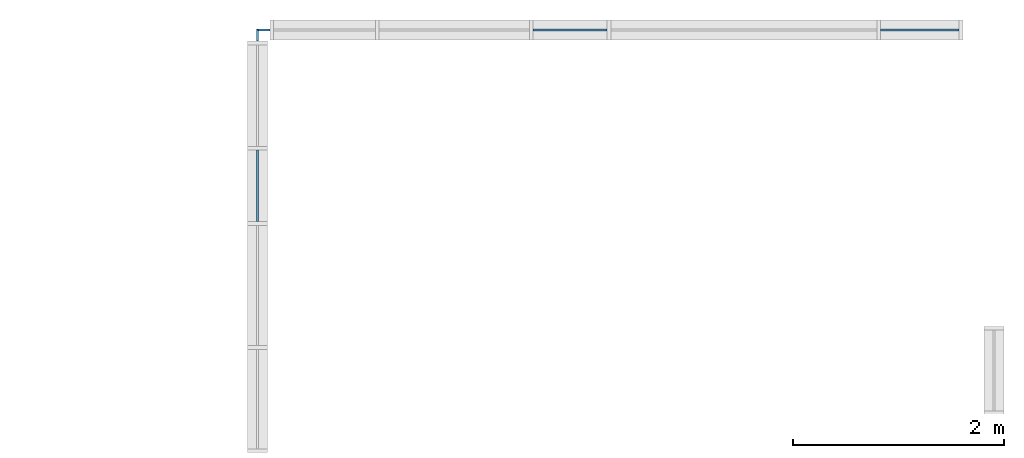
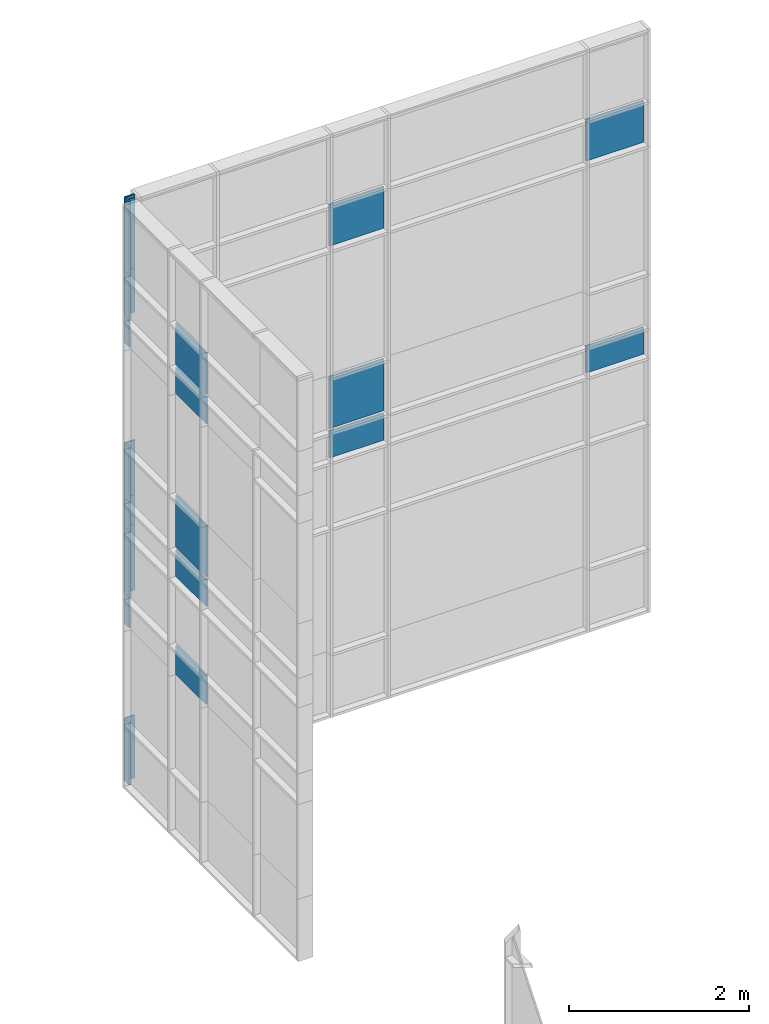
# One storey, part 44 of 73: 26 plates, 2 elements without a shape of their own.
"""IFC2X3 building model written with IfcOpenShell, lengths in millimetres."""

from ifc_helpers import new_model, entity, si_unit, converted_unit, derived_unit, direction, frame, frame_2d, origin, origin_2d_with_axis, place, context, subcontext, project, spatial, rectangle, extrude, source, transform, mapped, material, layer, layer_set, layer_usage, type_object, type_shapes, element, aggregate, save


model = new_model("IFC2X3")

# Units and contexts
model_context = context("Model", 3, precision=0.01, world=origin(), true_north=direction((6.12303176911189e-17, 1.0)))
body_context = subcontext(model_context, "Body", "Model", "MODEL_VIEW")
ifc_project = project(units=[si_unit("LENGTHUNIT", "METRE", prefix="MILLI"), si_unit("AREAUNIT", "SQUARE_METRE"), si_unit("VOLUMEUNIT", "CUBIC_METRE"), converted_unit("PLANEANGLEUNIT", "DEGREE", entity("IfcRatioMeasure", 0.0174532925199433), si_unit("PLANEANGLEUNIT", "RADIAN"), dimensions=[0, 0, 0, 0, 0, 0, 0]), si_unit("MASSUNIT", "GRAM", prefix="KILO"), derived_unit("MASSDENSITYUNIT", [(si_unit("MASSUNIT", "GRAM", prefix="KILO"), 1), (si_unit("LENGTHUNIT", "METRE"), -3)]), si_unit("TIMEUNIT", "SECOND"), si_unit("FREQUENCYUNIT", "HERTZ"), si_unit("THERMODYNAMICTEMPERATUREUNIT", "DEGREE_CELSIUS"), derived_unit("THERMALTRANSMITTANCEUNIT", [(si_unit("MASSUNIT", "GRAM", prefix="KILO"), 1), (si_unit("THERMODYNAMICTEMPERATUREUNIT", "KELVIN"), -1), (si_unit("TIMEUNIT", "SECOND"), -3)]), derived_unit("VOLUMETRICFLOWRATEUNIT", [(si_unit("LENGTHUNIT", "METRE"), 3), (si_unit("TIMEUNIT", "SECOND"), -1)]), si_unit("ELECTRICCURRENTUNIT", "AMPERE"), si_unit("ELECTRICVOLTAGEUNIT", "VOLT"), si_unit("POWERUNIT", "WATT"), si_unit("FORCEUNIT", "NEWTON", prefix="KILO"), si_unit("ILLUMINANCEUNIT", "LUX"), si_unit("LUMINOUSFLUXUNIT", "LUMEN"), si_unit("LUMINOUSINTENSITYUNIT", "CANDELA"), derived_unit("USERDEFINED", [(si_unit("MASSUNIT", "GRAM", prefix="KILO"), -1), (si_unit("LENGTHUNIT", "METRE"), -2), (si_unit("TIMEUNIT", "SECOND"), 3), (si_unit("LUMINOUSFLUXUNIT", "LUMEN"), 1)]), derived_unit("LINEARVELOCITYUNIT", [(si_unit("LENGTHUNIT", "METRE"), 1), (si_unit("TIMEUNIT", "SECOND"), -1)]), si_unit("PRESSUREUNIT", "PASCAL"), derived_unit("USERDEFINED", [(si_unit("LENGTHUNIT", "METRE"), -2), (si_unit("MASSUNIT", "GRAM", prefix="KILO"), 1), (si_unit("TIMEUNIT", "SECOND"), -2)])], contexts=[model_context])

# Site, building, storey
site_placement = place(None, frame((-151.875543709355, 2715.0, 0.0)))
site = spatial("IfcSite", under=ifc_project, at=site_placement, Name="Surface", CompositionType="ELEMENT")
building_placement = place(site_placement, origin())
building = spatial("IfcBuilding", under=site, at=building_placement, CompositionType="ELEMENT")
storey_placement = place(building_placement, frame((0.0, 0.0, 6730.43000000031)))
storey = spatial("IfcBuildingStorey", under=building, at=storey_placement, Name="3 korrus", CompositionType="ELEMENT", Elevation=6730.43000000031)

# Curtain wall, plates
curtain_wall_type = type_object("IfcCurtainWallType", Name="Curtain Wall:Klaasfassaad2", PredefinedType="NOTDEFINED")
curtain_wall_1_placement = place(storey_placement, frame((0.0, 0.0, -6730.43000000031)))
curtain_wall_1 = element("IfcCurtainWall", 1, at=curtain_wall_1_placement, inside=storey, type_object=curtain_wall_type, Name="Curtain Wall:Klaasfassaad2", ObjectType="Curtain Wall:Klaasfassaad2")
ifc_material = material(Name="<Unnamed>")
ifc_layer = layer(ifc_material, 20.0)
ifc_layer_set = layer_set([ifc_layer], Name="Curtain Wall:Klaassein KLS-01")
ifc_layer_usage_1 = layer_usage(ifc_layer_set, "AXIS3", "POSITIVE", 0.0)
plate_type_1 = type_object("IfcPlateType", Name="Glazed", PredefinedType="CURTAIN_PANEL", material=ifc_layer_set)
shared_shape_1 = source(origin(), body_context, "Body", "SweptSolid", [
    extrude(rectangle(XDim=20.0, YDim=129.499999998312, at=frame_2d((0.0, -7.105427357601e-15), x_axis=(1.0, 0.0))), frame((0.0, 0.0, 0.0), z_axis=(0.0, 0.0, 1.0), x_axis=(0.0, 1.0, 0.0)), (0.0, 0.0, 1.0), 850.159729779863),
])
type_shapes(plate_type_1, [shared_shape_1])
plate_1_placement = place(curtain_wall_1_placement, frame((31762.366268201, 26624.0, 3874.42773967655), z_axis=(0.0, 0.0, 1.0), x_axis=(-1.0, 0.0, 0.0)))
plate_1 = element("IfcPlate", 2, at=plate_1_placement, type_object=plate_type_1, material=ifc_layer_usage_1, Name="System Panel:Glazed", ObjectType="Glazed", context=body_context, shape_type="MappedRepresentation", body=[
    mapped(shared_shape_1, transform((0.0, 0.0, 0.0), scale=1.0)),
])
ifc_layer_usage_2 = layer_usage(ifc_layer_set, "AXIS3", "POSITIVE", 0.0)
plate_type_2 = type_object("IfcPlateType", Name="Glazed", PredefinedType="CURTAIN_PANEL", material=ifc_layer_set)
shared_shape_2 = source(origin(), body_context, "Body", "SweptSolid", [
    extrude(rectangle(XDim=20.0, YDim=129.499999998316, at=origin_2d_with_axis()), frame((0.0, 0.0, 0.0), z_axis=(0.0, 0.0, 1.0), x_axis=(0.0, 1.0, 0.0)), (0.0, 0.0, 1.0), 900.000000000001),
])
type_shapes(plate_type_2, [shared_shape_2])
plate_2_placement = place(curtain_wall_1_placement, frame((31762.366268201, 26624.0, 6424.90692901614), z_axis=(0.0, 0.0, 1.0), x_axis=(-1.0, 0.0, 0.0)))
plate_2 = element("IfcPlate", 3, at=plate_2_placement, type_object=plate_type_2, material=ifc_layer_usage_2, Name="System Panel:Glazed", ObjectType="Glazed", context=body_context, shape_type="MappedRepresentation", body=[
    mapped(shared_shape_2, transform((0.0, 0.0, 0.0), scale=1.0)),
])
ifc_layer_usage_3 = layer_usage(ifc_layer_set, "AXIS3", "POSITIVE", 0.0)
plate_type_3 = type_object("IfcPlateType", Name="Glazed", PredefinedType="CURTAIN_PANEL", material=ifc_layer_set)
shared_shape_3 = source(origin(), body_context, "Body", "SweptSolid", [
    extrude(rectangle(XDim=20.0, YDim=747.49999999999, at=origin_2d_with_axis()), frame((0.0, 0.0, 0.0), z_axis=(0.0, 0.0, 1.0), x_axis=(0.0, 1.0, 0.0)), (0.0, 0.0, 1.0), 365.0),
])
type_shapes(plate_type_3, [shared_shape_3])
plate_3_placement = place(curtain_wall_1_placement, frame((37997.8662682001, 26624.0, 7342.40692901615), z_axis=(0.0, 0.0, 1.0), x_axis=(-1.0, 0.0, 0.0)))
plate_3 = element("IfcPlate", 4, at=plate_3_placement, type_object=plate_type_3, material=ifc_layer_usage_3, Name="System Panel:Glazed", ObjectType="Glazed", context=body_context, shape_type="MappedRepresentation", body=[
    mapped(shared_shape_3, transform((0.0, 0.0, 0.0), scale=1.0)),
])
ifc_layer_usage_4 = layer_usage(ifc_layer_set, "AXIS3", "POSITIVE", 0.0)
plate_type_4 = type_object("IfcPlateType", Name="Glazed", PredefinedType="CURTAIN_PANEL", material=ifc_layer_set)
shared_shape_4 = source(origin(), body_context, "Body", "SweptSolid", [
    extrude(rectangle(XDim=20.0, YDim=705.000000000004, at=origin_2d_with_axis()), frame((0.0, 0.0, 0.0), z_axis=(0.0, 0.0, 1.0), x_axis=(0.0, 1.0, 0.0)), (0.0, 0.0, 1.0), 365.0),
])
type_shapes(plate_type_4, [shared_shape_4])
plate_4_placement = place(curtain_wall_1_placement, frame((34676.6162682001, 26624.0, 7342.40692901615), z_axis=(0.0, 0.0, 1.0), x_axis=(-1.0, 0.0, 0.0)))
plate_4 = element("IfcPlate", 5, at=plate_4_placement, type_object=plate_type_4, material=ifc_layer_usage_4, Name="System Panel:Glazed", ObjectType="Glazed", context=body_context, shape_type="MappedRepresentation", body=[
    mapped(shared_shape_4, transform((0.0, 0.0, 0.0), scale=1.0)),
])
ifc_layer_usage_5 = layer_usage(ifc_layer_set, "AXIS3", "POSITIVE", 0.0)
plate_type_5 = type_object("IfcPlateType", Name="Glazed", PredefinedType="CURTAIN_PANEL", material=ifc_layer_set)
shared_shape_5 = source(origin(), body_context, "Body", "SweptSolid", [
    extrude(rectangle(XDim=20.0, YDim=129.499999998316, at=origin_2d_with_axis()), frame((0.0, 0.0, 0.0), z_axis=(0.0, 0.0, 1.0), x_axis=(0.0, 1.0, 0.0)), (0.0, 0.0, 1.0), 400.000000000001),
])
type_shapes(plate_type_5, [shared_shape_5])
plate_5_placement = place(curtain_wall_1_placement, frame((31762.366268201, 26624.0, 7324.90692901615), z_axis=(0.0, 0.0, 1.0), x_axis=(-1.0, 0.0, 0.0)))
plate_5 = element("IfcPlate", 6, at=plate_5_placement, type_object=plate_type_5, material=ifc_layer_usage_5, Name="System Panel:Glazed", ObjectType="Glazed", context=body_context, shape_type="MappedRepresentation", body=[
    mapped(shared_shape_5, transform((0.0, 0.0, 0.0), scale=1.0)),
])
ifc_layer_usage_6 = layer_usage(ifc_layer_set, "AXIS3", "POSITIVE", 0.0)
plate_type_6 = type_object("IfcPlateType", Name="Glazed", PredefinedType="CURTAIN_PANEL", material=ifc_layer_set)
shared_shape_6 = source(origin(), body_context, "Body", "SweptSolid", [
    extrude(rectangle(XDim=20.0, YDim=705.000000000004, at=origin_2d_with_axis()), frame((0.0, 0.0, 0.0), z_axis=(0.0, 0.0, 1.0), x_axis=(0.0, 1.0, 0.0)), (0.0, 0.0, 1.0), 705.000000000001),
])
type_shapes(plate_type_6, [shared_shape_6])
plate_6_placement = place(curtain_wall_1_placement, frame((34676.6162682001, 26624.0, 7742.40692901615), z_axis=(0.0, 0.0, 1.0), x_axis=(-1.0, 0.0, 0.0)))
plate_6 = element("IfcPlate", 7, at=plate_6_placement, type_object=plate_type_6, material=ifc_layer_usage_6, Name="System Panel:Glazed", ObjectType="Glazed", context=body_context, shape_type="MappedRepresentation", body=[
    mapped(shared_shape_6, transform((0.0, 0.0, 0.0), scale=1.0)),
])
ifc_layer_usage_7 = layer_usage(ifc_layer_set, "AXIS3", "POSITIVE", 0.0)
plate_type_7 = type_object("IfcPlateType", Name="Glazed", PredefinedType="CURTAIN_PANEL", material=ifc_layer_set)
shared_shape_7 = source(origin(), body_context, "Body", "SweptSolid", [
    extrude(rectangle(XDim=20.0, YDim=129.499999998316, at=origin_2d_with_axis()), frame((0.0, 0.0, 0.0), z_axis=(0.0, 0.0, 1.0), x_axis=(0.0, 1.0, 0.0)), (0.0, 0.0, 1.0), 740.000000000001),
])
type_shapes(plate_type_7, [shared_shape_7])
plate_7_placement = place(curtain_wall_1_placement, frame((31762.366268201, 26624.0, 7724.90692901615), z_axis=(0.0, 0.0, 1.0), x_axis=(-1.0, 0.0, 0.0)))
plate_7 = element("IfcPlate", 8, at=plate_7_placement, type_object=plate_type_7, material=ifc_layer_usage_7, Name="System Panel:Glazed", ObjectType="Glazed", context=body_context, shape_type="MappedRepresentation", body=[
    mapped(shared_shape_7, transform((0.0, 0.0, 0.0), scale=1.0)),
])
ifc_layer_usage_8 = layer_usage(ifc_layer_set, "AXIS3", "POSITIVE", 0.0)
plate_type_8 = type_object("IfcPlateType", Name="Glazed", PredefinedType="CURTAIN_PANEL", material=ifc_layer_set)
shared_shape_8 = source(origin(), body_context, "Body", "SweptSolid", [
    extrude(rectangle(XDim=20.0, YDim=747.49999999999, at=origin_2d_with_axis()), frame((0.0, 0.0, 0.0), z_axis=(0.0, 0.0, 1.0), x_axis=(0.0, 1.0, 0.0)), (0.0, 0.0, 1.0), 565.000000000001),
])
type_shapes(plate_type_8, [shared_shape_8])
plate_8_placement = place(curtain_wall_1_placement, frame((37997.8662682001, 26624.0, 10222.4069290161), z_axis=(0.0, 0.0, 1.0), x_axis=(-1.0, 0.0, 0.0)))
plate_8 = element("IfcPlate", 9, at=plate_8_placement, type_object=plate_type_8, material=ifc_layer_usage_8, Name="System Panel:Glazed", ObjectType="Glazed", context=body_context, shape_type="MappedRepresentation", body=[
    mapped(shared_shape_8, transform((0.0, 0.0, 0.0), scale=1.0)),
])
ifc_layer_usage_9 = layer_usage(ifc_layer_set, "AXIS3", "POSITIVE", 0.0)
plate_type_9 = type_object("IfcPlateType", Name="Glazed", PredefinedType="CURTAIN_PANEL", material=ifc_layer_set)
shared_shape_9 = source(origin(), body_context, "Body", "SweptSolid", [
    extrude(rectangle(XDim=20.0, YDim=705.000000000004, at=origin_2d_with_axis()), frame((0.0, 0.0, 0.0), z_axis=(0.0, 0.0, 1.0), x_axis=(0.0, 1.0, 0.0)), (0.0, 0.0, 1.0), 565.0),
])
type_shapes(plate_type_9, [shared_shape_9])
plate_9_placement = place(curtain_wall_1_placement, frame((34676.6162682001, 26624.0, 10222.4069290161), z_axis=(0.0, 0.0, 1.0), x_axis=(-1.0, 0.0, 0.0)))
plate_9 = element("IfcPlate", 10, at=plate_9_placement, type_object=plate_type_9, material=ifc_layer_usage_9, Name="System Panel:Glazed", ObjectType="Glazed", context=body_context, shape_type="MappedRepresentation", body=[
    mapped(shared_shape_9, transform((0.0, 0.0, 0.0), scale=1.0)),
])
ifc_layer_usage_10 = layer_usage(ifc_layer_set, "AXIS3", "POSITIVE", 0.0)
plate_type_10 = type_object("IfcPlateType", Name="Glazed", PredefinedType="CURTAIN_PANEL", material=ifc_layer_set)
shared_shape_10 = source(origin(), body_context, "Body", "SweptSolid", [
    extrude(rectangle(XDim=20.0, YDim=129.499999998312, at=frame_2d((0.0, -7.105427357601e-15), x_axis=(1.0, 0.0))), frame((0.0, 0.0, 0.0), z_axis=(0.0, 0.0, 1.0), x_axis=(0.0, 1.0, 0.0)), (0.0, 0.0, 1.0), 600.000000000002),
])
type_shapes(plate_type_10, [shared_shape_10])
plate_10_placement = place(curtain_wall_1_placement, frame((31762.366268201, 26624.0, 10204.9069290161), z_axis=(0.0, 0.0, 1.0), x_axis=(-1.0, 0.0, 0.0)))
plate_10 = element("IfcPlate", 11, at=plate_10_placement, type_object=plate_type_10, material=ifc_layer_usage_10, Name="System Panel:Glazed", ObjectType="Glazed", context=body_context, shape_type="MappedRepresentation", body=[
    mapped(shared_shape_10, transform((0.0, 0.0, 0.0), scale=1.0)),
])
ifc_layer_usage_11 = layer_usage(ifc_layer_set, "AXIS3", "POSITIVE", 0.0)
plate_type_11 = type_object("IfcPlateType", Name="Glazed", PredefinedType="CURTAIN_PANEL", material=ifc_layer_set)
shared_shape_11 = source(origin(), body_context, "Body", "SweptSolid", [
    extrude(rectangle(XDim=20.0, YDim=129.499999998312, at=frame_2d((0.0, -7.105427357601e-15), x_axis=(1.0, 0.0))), frame((0.0, 0.0, 0.0), z_axis=(0.0, 0.0, 1.0), x_axis=(0.0, 1.0, 0.0)), (0.0, 0.0, 1.0), 960.000000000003),
])
type_shapes(plate_type_11, [shared_shape_11])
plate_11_placement = place(curtain_wall_1_placement, frame((31762.366268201, 26624.0, 10804.9069290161), z_axis=(0.0, 0.0, 1.0), x_axis=(-1.0, 0.0, 0.0)))
plate_11 = element("IfcPlate", 12, at=plate_11_placement, type_object=plate_type_11, material=ifc_layer_usage_11, Name="System Panel:Glazed", ObjectType="Glazed", context=body_context, shape_type="MappedRepresentation", body=[
    mapped(shared_shape_11, transform((0.0, 0.0, 0.0), scale=1.0)),
])
ifc_layer_usage_12 = layer_usage(ifc_layer_set, "AXIS3", "POSITIVE", 0.0)
plate_type_12 = type_object("IfcPlateType", Name="Glazed", PredefinedType="CURTAIN_PANEL", material=ifc_layer_set)
shared_shape_12 = source(origin(), body_context, "Body", "SweptSolid", [
    extrude(rectangle(XDim=20.0, YDim=129.499999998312, at=frame_2d((0.0, -7.105427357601e-15), x_axis=(1.0, 0.0))), frame((0.0, 0.0, 0.0), z_axis=(0.0, 0.0, 1.0), x_axis=(0.0, 1.0, 0.0)), (0.0, 0.0, 1.0), 39.9999999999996),
])
type_shapes(plate_type_12, [shared_shape_12])
plate_12_placement = place(curtain_wall_1_placement, frame((31762.366268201, 26624.0, 11764.9069290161), z_axis=(0.0, 0.0, 1.0), x_axis=(-1.0, 0.0, 0.0)))
plate_12 = element("IfcPlate", 13, at=plate_12_placement, type_object=plate_type_12, material=ifc_layer_usage_12, Name="System Panel:Glazed", ObjectType="Glazed", context=body_context, shape_type="MappedRepresentation", body=[
    mapped(shared_shape_12, transform((0.0, 0.0, 0.0), scale=1.0)),
])
aggregate(curtain_wall_1, [plate_1, plate_2, plate_3, plate_4, plate_5, plate_6, plate_7, plate_8, plate_9, plate_10, plate_11, plate_12])

curtain_wall_2_placement = place(storey_placement, frame((0.0, 0.0, -6730.43000000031)))
curtain_wall_2 = element("IfcCurtainWall", 14, at=curtain_wall_2_placement, inside=storey, type_object=curtain_wall_type, Name="Curtain Wall:Klaasfassaad2", ObjectType="Curtain Wall:Klaasfassaad2")
ifc_layer_usage_13 = layer_usage(ifc_layer_set, "AXIS3", "POSITIVE", 0.0)
plate_type_13 = type_object("IfcPlateType", Name="Glazed", PredefinedType="CURTAIN_PANEL", material=ifc_layer_set)
shared_shape_13 = source(origin(), body_context, "Body", "SweptSolid", [
    extrude(rectangle(XDim=20.0, YDim=105.318663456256, at=origin_2d_with_axis()), frame((0.0, 0.0, 0.0), z_axis=(0.0, 0.0, 1.0), x_axis=(0.0, 1.0, 0.0)), (0.0, 0.0, 1.0), 850.159729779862),
])
type_shapes(plate_type_13, [shared_shape_13])
plate_13_placement = place(curtain_wall_2_placement, frame((31707.6162682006, 26571.3406948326, 3874.42773967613), z_axis=(0.0, 0.0, 1.0), x_axis=(0.0, 1.0, 0.0)))
plate_13 = element("IfcPlate", 15, at=plate_13_placement, type_object=plate_type_13, material=ifc_layer_usage_13, Name="System Panel:Glazed", ObjectType="Glazed", context=body_context, shape_type="MappedRepresentation", body=[
    mapped(shared_shape_13, transform((0.0, 0.0, 0.0), scale=1.0)),
])
ifc_layer_usage_14 = layer_usage(ifc_layer_set, "AXIS3", "POSITIVE", 0.0)
plate_type_14 = type_object("IfcPlateType", Name="Glazed", PredefinedType="CURTAIN_PANEL", material=ifc_layer_set)
shared_shape_14 = source(origin(), body_context, "Body", "SweptSolid", [
    extrude(rectangle(XDim=20.0, YDim=679.999999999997, at=origin_2d_with_axis()), frame((0.0, 0.0, 0.0), z_axis=(0.0, 0.0, 1.0), x_axis=(0.0, 1.0, 0.0)), (0.0, 0.0, 1.0), 397.979189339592),
])
type_shapes(plate_type_14, [shared_shape_14])
plate_14_placement = place(curtain_wall_2_placement, frame((31707.6162682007, 25143.6813631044, 6009.42773967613), z_axis=(0.0, 0.0, 1.0), x_axis=(0.0, 1.0, 0.0)))
plate_14 = element("IfcPlate", 16, at=plate_14_placement, type_object=plate_type_14, material=ifc_layer_usage_14, Name="System Panel:Glazed", ObjectType="Glazed", context=body_context, shape_type="MappedRepresentation", body=[
    mapped(shared_shape_14, transform((0.0, 0.0, 0.0), scale=1.0)),
])
ifc_layer_usage_15 = layer_usage(ifc_layer_set, "AXIS3", "POSITIVE", 0.0)
plate_type_15 = type_object("IfcPlateType", Name="Glazed", PredefinedType="CURTAIN_PANEL", material=ifc_layer_set)
shared_shape_15 = source(origin(), body_context, "Body", "SweptSolid", [
    extrude(rectangle(XDim=20.0, YDim=105.31866345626, at=origin_2d_with_axis()), frame((0.0, 0.0, 0.0), z_axis=(0.0, 0.0, 1.0), x_axis=(0.0, 1.0, 0.0)), (0.0, 0.0, 1.0), 415.479189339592),
])
type_shapes(plate_type_15, [shared_shape_15])
plate_15_placement = place(curtain_wall_2_placement, frame((31707.6162682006, 26571.3406948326, 6009.42773967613), z_axis=(0.0, 0.0, 1.0), x_axis=(0.0, 1.0, 0.0)))
plate_15 = element("IfcPlate", 17, at=plate_15_placement, type_object=plate_type_15, material=ifc_layer_usage_15, Name="System Panel:Glazed", ObjectType="Glazed", context=body_context, shape_type="MappedRepresentation", body=[
    mapped(shared_shape_15, transform((0.0, 0.0, 0.0), scale=1.0)),
])
ifc_layer_usage_16 = layer_usage(ifc_layer_set, "AXIS3", "POSITIVE", 0.0)
plate_type_16 = type_object("IfcPlateType", Name="Glazed", PredefinedType="CURTAIN_PANEL", material=ifc_layer_set)
shared_shape_16 = source(origin(), body_context, "Body", "SweptSolid", [
    extrude(rectangle(XDim=20.0, YDim=105.318663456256, at=origin_2d_with_axis()), frame((0.0, 0.0, 0.0), z_axis=(0.0, 0.0, 1.0), x_axis=(0.0, 1.0, 0.0)), (0.0, 0.0, 1.0), 900.000000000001),
])
type_shapes(plate_type_16, [shared_shape_16])
plate_16_placement = place(curtain_wall_2_placement, frame((31707.6162682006, 26571.3406948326, 6424.90692901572), z_axis=(0.0, 0.0, 1.0), x_axis=(0.0, 1.0, 0.0)))
plate_16 = element("IfcPlate", 18, at=plate_16_placement, type_object=plate_type_16, material=ifc_layer_usage_16, Name="System Panel:Glazed", ObjectType="Glazed", context=body_context, shape_type="MappedRepresentation", body=[
    mapped(shared_shape_16, transform((0.0, 0.0, 0.0), scale=1.0)),
])
ifc_layer_usage_17 = layer_usage(ifc_layer_set, "AXIS3", "POSITIVE", 0.0)
plate_type_17 = type_object("IfcPlateType", Name="Glazed", PredefinedType="CURTAIN_PANEL", material=ifc_layer_set)
shared_shape_17 = source(origin(), body_context, "Body", "SweptSolid", [
    extrude(rectangle(XDim=20.0, YDim=679.999999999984, at=origin_2d_with_axis()), frame((0.0, 0.0, 0.0), z_axis=(0.0, 0.0, 1.0), x_axis=(0.0, 1.0, 0.0)), (0.0, 0.0, 1.0), 364.999999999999),
])
type_shapes(plate_type_17, [shared_shape_17])
plate_17_placement = place(curtain_wall_2_placement, frame((31707.6162682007, 25143.6813631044, 7342.40692901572), z_axis=(0.0, 0.0, 1.0), x_axis=(0.0, 1.0, 0.0)))
plate_17 = element("IfcPlate", 19, at=plate_17_placement, type_object=plate_type_17, material=ifc_layer_usage_17, Name="System Panel:Glazed", ObjectType="Glazed", context=body_context, shape_type="MappedRepresentation", body=[
    mapped(shared_shape_17, transform((0.0, 0.0, 0.0), scale=1.0)),
])
ifc_layer_usage_18 = layer_usage(ifc_layer_set, "AXIS3", "POSITIVE", 0.0)
plate_type_18 = type_object("IfcPlateType", Name="Glazed", PredefinedType="CURTAIN_PANEL", material=ifc_layer_set)
shared_shape_18 = source(origin(), body_context, "Body", "SweptSolid", [
    extrude(rectangle(XDim=20.0, YDim=105.318663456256, at=origin_2d_with_axis()), frame((0.0, 0.0, 0.0), z_axis=(0.0, 0.0, 1.0), x_axis=(0.0, 1.0, 0.0)), (0.0, 0.0, 1.0), 400.000000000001),
])
type_shapes(plate_type_18, [shared_shape_18])
plate_18_placement = place(curtain_wall_2_placement, frame((31707.6162682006, 26571.3406948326, 7324.90692901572), z_axis=(0.0, 0.0, 1.0), x_axis=(0.0, 1.0, 0.0)))
plate_18 = element("IfcPlate", 20, at=plate_18_placement, type_object=plate_type_18, material=ifc_layer_usage_18, Name="System Panel:Glazed", ObjectType="Glazed", context=body_context, shape_type="MappedRepresentation", body=[
    mapped(shared_shape_18, transform((0.0, 0.0, 0.0), scale=1.0)),
])
ifc_layer_usage_19 = layer_usage(ifc_layer_set, "AXIS3", "POSITIVE", 0.0)
plate_type_19 = type_object("IfcPlateType", Name="Glazed", PredefinedType="CURTAIN_PANEL", material=ifc_layer_set)
shared_shape_19 = source(origin(), body_context, "Body", "SweptSolid", [
    extrude(rectangle(XDim=20.0, YDim=679.999999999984, at=origin_2d_with_axis()), frame((0.0, 0.0, 0.0), z_axis=(0.0, 0.0, 1.0), x_axis=(0.0, 1.0, 0.0)), (0.0, 0.0, 1.0), 705.0),
])
type_shapes(plate_type_19, [shared_shape_19])
plate_19_placement = place(curtain_wall_2_placement, frame((31707.6162682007, 25143.6813631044, 7742.40692901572), z_axis=(0.0, 0.0, 1.0), x_axis=(0.0, 1.0, 0.0)))
plate_19 = element("IfcPlate", 21, at=plate_19_placement, type_object=plate_type_19, material=ifc_layer_usage_19, Name="System Panel:Glazed", ObjectType="Glazed", context=body_context, shape_type="MappedRepresentation", body=[
    mapped(shared_shape_19, transform((0.0, 0.0, 0.0), scale=1.0)),
])
ifc_layer_usage_20 = layer_usage(ifc_layer_set, "AXIS3", "POSITIVE", 0.0)
plate_type_20 = type_object("IfcPlateType", Name="Glazed", PredefinedType="CURTAIN_PANEL", material=ifc_layer_set)
shared_shape_20 = source(origin(), body_context, "Body", "SweptSolid", [
    extrude(rectangle(XDim=20.0, YDim=105.31866345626, at=origin_2d_with_axis()), frame((0.0, 0.0, 0.0), z_axis=(0.0, 0.0, 1.0), x_axis=(0.0, 1.0, 0.0)), (0.0, 0.0, 1.0), 740.000000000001),
])
type_shapes(plate_type_20, [shared_shape_20])
plate_20_placement = place(curtain_wall_2_placement, frame((31707.6162682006, 26571.3406948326, 7724.90692901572), z_axis=(0.0, 0.0, 1.0), x_axis=(0.0, 1.0, 0.0)))
plate_20 = element("IfcPlate", 22, at=plate_20_placement, type_object=plate_type_20, material=ifc_layer_usage_20, Name="System Panel:Glazed", ObjectType="Glazed", context=body_context, shape_type="MappedRepresentation", body=[
    mapped(shared_shape_20, transform((0.0, 0.0, 0.0), scale=1.0)),
])
ifc_layer_usage_21 = layer_usage(ifc_layer_set, "AXIS3", "POSITIVE", 0.0)
plate_type_21 = type_object("IfcPlateType", Name="Glazed", PredefinedType="CURTAIN_PANEL", material=ifc_layer_set)
shared_shape_21 = source(origin(), body_context, "Body", "SweptSolid", [
    extrude(rectangle(XDim=20.0, YDim=679.999999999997, at=origin_2d_with_axis()), frame((0.0, 0.0, 0.0), z_axis=(0.0, 0.0, 1.0), x_axis=(0.0, 1.0, 0.0)), (0.0, 0.0, 1.0), 362.5),
])
type_shapes(plate_type_21, [shared_shape_21])
plate_21_placement = place(curtain_wall_2_placement, frame((31707.6162682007, 25143.6813631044, 9824.90692901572), z_axis=(0.0, 0.0, 1.0), x_axis=(0.0, 1.0, 0.0)))
plate_21 = element("IfcPlate", 23, at=plate_21_placement, type_object=plate_type_21, material=ifc_layer_usage_21, Name="System Panel:Glazed", ObjectType="Glazed", context=body_context, shape_type="MappedRepresentation", body=[
    mapped(shared_shape_21, transform((0.0, 0.0, 0.0), scale=1.0)),
])
ifc_layer_usage_22 = layer_usage(ifc_layer_set, "AXIS3", "POSITIVE", 0.0)
plate_type_22 = type_object("IfcPlateType", Name="Glazed", PredefinedType="CURTAIN_PANEL", material=ifc_layer_set)
shared_shape_22 = source(origin(), body_context, "Body", "SweptSolid", [
    extrude(rectangle(XDim=20.0, YDim=105.318663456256, at=origin_2d_with_axis()), frame((0.0, 0.0, 0.0), z_axis=(0.0, 0.0, 1.0), x_axis=(0.0, 1.0, 0.0)), (0.0, 0.0, 1.0), 380.0),
])
type_shapes(plate_type_22, [shared_shape_22])
plate_22_placement = place(curtain_wall_2_placement, frame((31707.6162682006, 26571.3406948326, 9824.90692901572), z_axis=(0.0, 0.0, 1.0), x_axis=(0.0, 1.0, 0.0)))
plate_22 = element("IfcPlate", 24, at=plate_22_placement, type_object=plate_type_22, material=ifc_layer_usage_22, Name="System Panel:Glazed", ObjectType="Glazed", context=body_context, shape_type="MappedRepresentation", body=[
    mapped(shared_shape_22, transform((0.0, 0.0, 0.0), scale=1.0)),
])
ifc_layer_usage_23 = layer_usage(ifc_layer_set, "AXIS3", "POSITIVE", 0.0)
plate_type_23 = type_object("IfcPlateType", Name="Glazed", PredefinedType="CURTAIN_PANEL", material=ifc_layer_set)
shared_shape_23 = source(origin(), body_context, "Body", "SweptSolid", [
    extrude(rectangle(XDim=20.0, YDim=679.999999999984, at=origin_2d_with_axis()), frame((0.0, 0.0, 0.0), z_axis=(0.0, 0.0, 1.0), x_axis=(0.0, 1.0, 0.0)), (0.0, 0.0, 1.0), 565.000000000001),
])
type_shapes(plate_type_23, [shared_shape_23])
plate_23_placement = place(curtain_wall_2_placement, frame((31707.6162682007, 25143.6813631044, 10222.4069290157), z_axis=(0.0, 0.0, 1.0), x_axis=(0.0, 1.0, 0.0)))
plate_23 = element("IfcPlate", 25, at=plate_23_placement, type_object=plate_type_23, material=ifc_layer_usage_23, Name="System Panel:Glazed", ObjectType="Glazed", context=body_context, shape_type="MappedRepresentation", body=[
    mapped(shared_shape_23, transform((0.0, 0.0, 0.0), scale=1.0)),
])
ifc_layer_usage_24 = layer_usage(ifc_layer_set, "AXIS3", "POSITIVE", 0.0)
plate_type_24 = type_object("IfcPlateType", Name="Glazed", PredefinedType="CURTAIN_PANEL", material=ifc_layer_set)
shared_shape_24 = source(origin(), body_context, "Body", "SweptSolid", [
    extrude(rectangle(XDim=20.0, YDim=105.318663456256, at=origin_2d_with_axis()), frame((0.0, 0.0, 0.0), z_axis=(0.0, 0.0, 1.0), x_axis=(0.0, 1.0, 0.0)), (0.0, 0.0, 1.0), 600.000000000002),
])
type_shapes(plate_type_24, [shared_shape_24])
plate_24_placement = place(curtain_wall_2_placement, frame((31707.6162682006, 26571.3406948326, 10204.9069290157), z_axis=(0.0, 0.0, 1.0), x_axis=(0.0, 1.0, 0.0)))
plate_24 = element("IfcPlate", 26, at=plate_24_placement, type_object=plate_type_24, material=ifc_layer_usage_24, Name="System Panel:Glazed", ObjectType="Glazed", context=body_context, shape_type="MappedRepresentation", body=[
    mapped(shared_shape_24, transform((0.0, 0.0, 0.0), scale=1.0)),
])
ifc_layer_usage_25 = layer_usage(ifc_layer_set, "AXIS3", "POSITIVE", 0.0)
plate_type_25 = type_object("IfcPlateType", Name="Glazed", PredefinedType="CURTAIN_PANEL", material=ifc_layer_set)
shared_shape_25 = source(origin(), body_context, "Body", "SweptSolid", [
    extrude(rectangle(XDim=20.0, YDim=105.318663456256, at=origin_2d_with_axis()), frame((0.0, 0.0, 0.0), z_axis=(0.0, 0.0, 1.0), x_axis=(0.0, 1.0, 0.0)), (0.0, 0.0, 1.0), 960.000000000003),
])
type_shapes(plate_type_25, [shared_shape_25])
plate_25_placement = place(curtain_wall_2_placement, frame((31707.6162682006, 26571.3406948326, 10804.9069290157), z_axis=(0.0, 0.0, 1.0), x_axis=(0.0, 1.0, 0.0)))
plate_25 = element("IfcPlate", 27, at=plate_25_placement, type_object=plate_type_25, material=ifc_layer_usage_25, Name="System Panel:Glazed", ObjectType="Glazed", context=body_context, shape_type="MappedRepresentation", body=[
    mapped(shared_shape_25, transform((0.0, 0.0, 0.0), scale=1.0)),
])
ifc_layer_usage_26 = layer_usage(ifc_layer_set, "AXIS3", "POSITIVE", 0.0)
plate_type_26 = type_object("IfcPlateType", Name="Glazed", PredefinedType="CURTAIN_PANEL", material=ifc_layer_set)
shared_shape_26 = source(origin(), body_context, "Body", "SweptSolid", [
    extrude(rectangle(XDim=20.0, YDim=105.318663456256, at=origin_2d_with_axis()), frame((0.0, 0.0, 0.0), z_axis=(0.0, 0.0, 1.0), x_axis=(0.0, 1.0, 0.0)), (0.0, 0.0, 1.0), 39.9999999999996),
])
type_shapes(plate_type_26, [shared_shape_26])
plate_26_placement = place(curtain_wall_2_placement, frame((31707.6162682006, 26571.3406948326, 11764.9069290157), z_axis=(0.0, 0.0, 1.0), x_axis=(0.0, 1.0, 0.0)))
plate_26 = element("IfcPlate", 28, at=plate_26_placement, type_object=plate_type_26, material=ifc_layer_usage_26, Name="System Panel:Glazed", ObjectType="Glazed", context=body_context, shape_type="MappedRepresentation", body=[
    mapped(shared_shape_26, transform((0.0, 0.0, 0.0), scale=1.0)),
])
aggregate(curtain_wall_2, [plate_13, plate_14, plate_15, plate_16, plate_17, plate_18, plate_19, plate_20, plate_21, plate_22, plate_23, plate_24, plate_25, plate_26])

save(model, "model.ifc")
